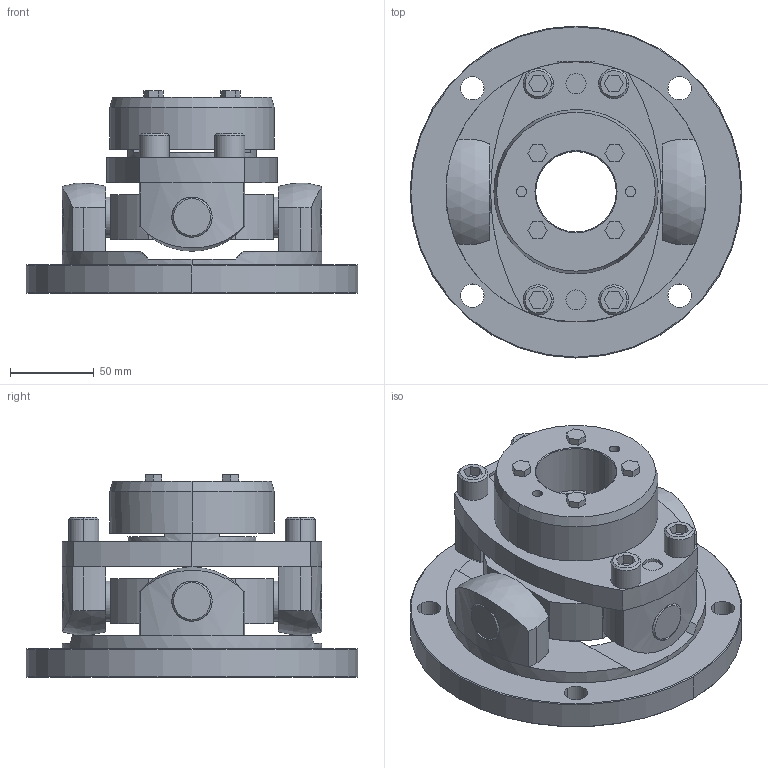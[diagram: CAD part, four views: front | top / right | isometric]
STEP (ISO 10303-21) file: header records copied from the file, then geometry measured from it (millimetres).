
FILE_DESCRIPTION((''),'2;1');
FILE_NAME('UCNF-155T7-48.stp','2015-10-28T08:11:45',(''),(''),'AutoCAD STEP 2000i','AutoCAD 2000i',', , ');
FILE_SCHEMA(('CONFIG_CONTROL_DESIGN'));
Length unit declared in the file: millimetre
Products named in the file (7): UCNF-155T7-50; 忣兜1; UCN155T7-T050; UCNF-15502; UCN155T7-T045-1; UCN155T7-T045; UCN155-SEN
Assembly tree (6 placements, depth 2):
  UCNF-155T7-50
    忣兜1
    UCN155T7-T050
    UCNF-15502
    UCN155T7-T045-1
    UCN155T7-T045
    UCN155-SEN
Bounding box: 198 x 198 x 121 mm (x, y, z)
Volume: 1180459.8 mm3; surface area: 183819.6 mm2
Topology: 1 solids, 1 shells, 282 faces, 695 edges, 453 vertices
Faces by surface type: plane 132, cylinder 108, cone 38, sphere 4
Entity records: 8989 total; most frequent: CARTESIAN_POINT 1841, DIRECTION 1544, ORIENTED_EDGE 1390, EDGE_CURVE 695, AXIS2_PLACEMENT_3D 576, VERTEX_POINT 453, VECTOR 392, LINE 392
